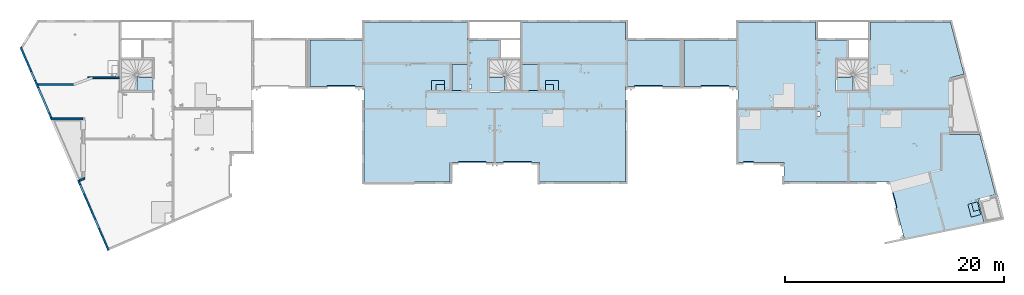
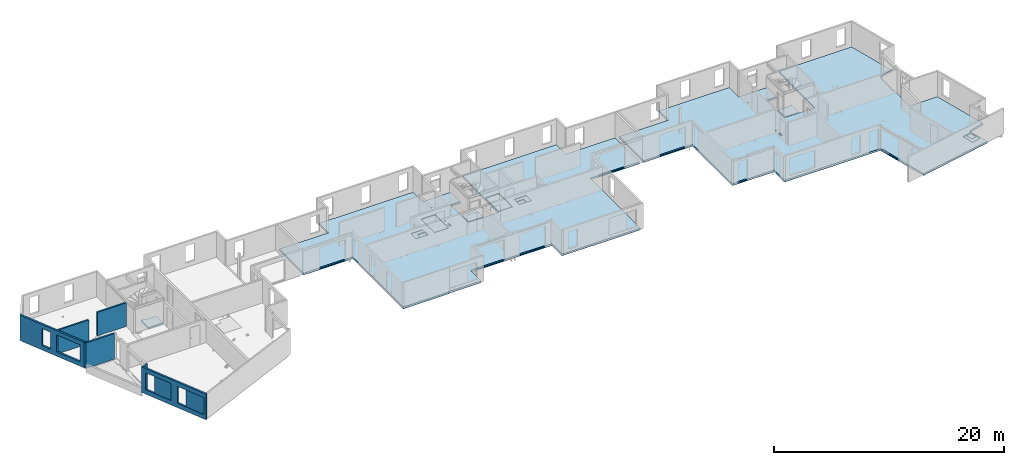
# One storey, part 2 of 30: 6 walls, 5 slabs, 31 openings.
"""IFC2X3 building model written with IfcOpenShell, lengths in centimetres."""

from ifc_helpers import new_model, entity, si_unit, converted_unit, derived_unit, direction, frame, frame_2d, origin, origin_2d_with_axis, place, context, subcontext, project, spatial, polyline, circle_curve, parameter, trimmed, segment, composite_curve, rectangle, circle, outline, extrude, material, layer, layer_set, layer_usage, type_object, element, save


model = new_model("IFC2X3")

# Units and contexts
model_context = context("Model", 3, precision=0.001, world=origin(), true_north=direction((6.12303176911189e-17, 1.0)))
body_context = subcontext(model_context, "Body", "Model", "MODEL_VIEW")
ifc_project = project(units=[si_unit("LENGTHUNIT", "METRE", prefix="CENTI"), si_unit("AREAUNIT", "SQUARE_METRE"), si_unit("VOLUMEUNIT", "CUBIC_METRE"), converted_unit("PLANEANGLEUNIT", "DEGREE", entity("IfcRatioMeasure", 0.0174532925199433), si_unit("PLANEANGLEUNIT", "RADIAN"), dimensions=[0, 0, 0, 0, 0, 0, 0]), si_unit("MASSUNIT", "GRAM", prefix="KILO"), derived_unit("MASSDENSITYUNIT", [(si_unit("MASSUNIT", "GRAM", prefix="KILO"), 1), (si_unit("LENGTHUNIT", "METRE"), -3)]), si_unit("TIMEUNIT", "SECOND"), si_unit("FREQUENCYUNIT", "HERTZ"), si_unit("THERMODYNAMICTEMPERATUREUNIT", "DEGREE_CELSIUS"), derived_unit("THERMALTRANSMITTANCEUNIT", [(si_unit("MASSUNIT", "GRAM", prefix="KILO"), 1), (si_unit("THERMODYNAMICTEMPERATUREUNIT", "KELVIN"), -1), (si_unit("TIMEUNIT", "SECOND"), -3)]), derived_unit("VOLUMETRICFLOWRATEUNIT", [(si_unit("LENGTHUNIT", "METRE"), 3), (si_unit("TIMEUNIT", "SECOND"), -1)]), si_unit("ELECTRICCURRENTUNIT", "AMPERE"), si_unit("ELECTRICVOLTAGEUNIT", "VOLT"), si_unit("POWERUNIT", "WATT"), si_unit("FORCEUNIT", "NEWTON"), si_unit("ILLUMINANCEUNIT", "LUX"), si_unit("LUMINOUSFLUXUNIT", "LUMEN"), si_unit("LUMINOUSINTENSITYUNIT", "CANDELA"), derived_unit("USERDEFINED", [(si_unit("MASSUNIT", "GRAM", prefix="KILO"), -1), (si_unit("LENGTHUNIT", "METRE"), -2), (si_unit("TIMEUNIT", "SECOND"), 3), (si_unit("LUMINOUSFLUXUNIT", "LUMEN"), 1)]), derived_unit("LINEARVELOCITYUNIT", [(si_unit("LENGTHUNIT", "METRE"), 1), (si_unit("TIMEUNIT", "SECOND"), -1)]), si_unit("PRESSUREUNIT", "PASCAL"), derived_unit("USERDEFINED", [(si_unit("LENGTHUNIT", "METRE"), -2), (si_unit("MASSUNIT", "GRAM", prefix="KILO"), 1), (si_unit("TIMEUNIT", "SECOND"), -2)])], contexts=[model_context])

# Site, building, storey
site_placement = place(None, origin())
site = spatial("IfcSite", under=ifc_project, at=site_placement, Name="Default", CompositionType="ELEMENT")
building_placement = place(site_placement, origin())
building = spatial("IfcBuilding", under=site, at=building_placement, Name="CAGE 03", CompositionType="ELEMENT")
storey_placement = place(building_placement, frame((0.0, 0.0, 610.0)))
storey = spatial("IfcBuildingStorey", under=building, at=storey_placement, Name="R+2", CompositionType="ELEMENT", Elevation=610.0)

# Slab, openings
ifc_material = material(Name="Béton, C25/30")
ifc_layer_1 = layer(ifc_material, 20.0)
ifc_layer_set_1 = layer_set([ifc_layer_1], Name="Sol:Dalle Béton - 20 cm")
ifc_layer_usage_1 = layer_usage(ifc_layer_set_1, "AXIS3", "POSITIVE", 0.0)
slab_1_placement = place(storey_placement, frame((5393.36582014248, 3809.1606660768, -20.0)))
slab_1 = element("IfcSlab", 1, at=slab_1_placement, inside=storey, material=ifc_layer_usage_1, Name="Sol:Dalle Béton - 20 cm", ObjectType="Sol:Dalle Béton - 20 cm", PredefinedType="FLOOR", context=body_context, shape_type="SweptSolid", body=[
    extrude(outline(polyline([(-37.0, 402.749999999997), (62.4999999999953, 402.749999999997), (62.4999999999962, 95.7499999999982), (-244.500000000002, 95.7499999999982), (-244.500000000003, 568.249999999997), (-250.0, 568.249999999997), (-250.0, 733.249999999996), (-1193.0, 733.249999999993), (-1193.0, 568.249999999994), (-1688.0, 568.249999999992), (-1688.0, 144.249999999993), (-1193.0, 144.249999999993), (-1193.0, -727.750000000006), (-408.0, -727.750000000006), (-408.0, -547.750000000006), (408.0, -547.750000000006), (408.0, -727.749999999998), (734.0, -727.749999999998), (734.0, -733.25), (1193.0, -733.249999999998), (1193.0, 144.250000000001), (1688.0, 144.250000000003), (1688.0, 568.250000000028), (1193.0, 568.250000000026), (1193.0, 733.25), (250.0, 733.249999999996), (250.0, 568.249999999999), (-37.0, 568.249999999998), (-37.0, 402.749999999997)])), frame((1688.0, 733.25, 20.0), z_axis=(0.0, 0.0, -1.0), x_axis=(-1.0, 0.0, 0.0)), (0.0, 0.0, 1.0), 20.0),
])
opening_1_placement = place(slab_1_placement, origin())
element("IfcOpeningElement", 2, at=opening_1_placement, cuts=slab_1, ObjectType="Opening", context=body_context, shape_type="SweptSolid", body=[
    extrude(rectangle(XDim=254.999999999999, YDim=26.0000000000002, at=origin_2d_with_axis()), frame((284.5, 872.500000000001, 8.0)), (0.0, 0.0, 1.0), 12.0),
])
opening_2_placement = place(slab_1_placement, origin())
element("IfcOpeningElement", 3, at=opening_2_placement, cuts=slab_1, ObjectType="Opening", context=body_context, shape_type="SweptSolid", body=[
    extrude(rectangle(XDim=255.000000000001, YDim=25.9999999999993, at=origin_2d_with_axis()), frame((3091.49999999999, 872.499999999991, 8.0)), (0.0, 0.0, 1.0), 12.0),
])
opening_3_placement = place(slab_1_placement, origin())
element("IfcOpeningElement", 4, at=opening_3_placement, cuts=slab_1, ObjectType="Opening", context=body_context, shape_type="SweptSolid", body=[
    extrude(rectangle(XDim=254.999999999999, YDim=26.0000000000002, at=origin_2d_with_axis()), frame((1481.5, 180.499999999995, 8.0)), (0.0, 0.0, 1.0), 12.0),
])
opening_4_placement = place(slab_1_placement, origin())
element("IfcOpeningElement", 5, at=opening_4_placement, cuts=slab_1, ObjectType="Opening", context=body_context, shape_type="SweptSolid", body=[
    extrude(rectangle(XDim=254.999999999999, YDim=25.9999999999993, at=origin_2d_with_axis()), frame((1894.49999999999, 180.499999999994, 8.0)), (0.0, 0.0, 1.0), 12.0),
])
opening_5_placement = place(slab_1_placement, origin())
element("IfcOpeningElement", 6, at=opening_5_placement, cuts=slab_1, ObjectType="Opening", context=body_context, shape_type="SweptSolid", body=[
    extrude(rectangle(XDim=120.000000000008, YDim=90.0000000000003, at=origin_2d_with_axis()), frame((1168.0, 886.499999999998, 17.0), z_axis=(0.0, 0.0, 1.0), x_axis=(-1.0, 0.0, 0.0)), (0.0, 0.0, 1.0), 13.9999999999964),
])
opening_6_placement = place(slab_1_placement, origin())
element("IfcOpeningElement", 7, at=opening_6_placement, cuts=slab_1, ObjectType="Opening", context=body_context, shape_type="SweptSolid", body=[
    extrude(rectangle(XDim=75.0000000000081, YDim=54.9999999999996, at=origin_2d_with_axis()), frame((1190.5, 869.0, 10.0), z_axis=(0.0, 0.0, 1.0), x_axis=(-1.0, 0.0, 0.0)), (0.0, 0.0, 1.0), 20.9999999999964),
])
opening_7_placement = place(slab_1_placement, origin())
element("IfcOpeningElement", 8, at=opening_7_placement, cuts=slab_1, ObjectType="Opening", context=body_context, shape_type="SweptSolid", body=[
    extrude(rectangle(XDim=120.000000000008, YDim=90.0000000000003, at=origin_2d_with_axis()), frame((2208.0, 886.499999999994, 17.0), z_axis=(0.0, 0.0, 1.0), x_axis=(-1.0, 0.0, 0.0)), (0.0, 0.0, 1.0), 13.9999999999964),
])
opening_8_placement = place(slab_1_placement, origin())
element("IfcOpeningElement", 9, at=opening_8_placement, cuts=slab_1, ObjectType="Opening", context=body_context, shape_type="SweptSolid", body=[
    extrude(rectangle(XDim=75.0000000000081, YDim=54.9999999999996, at=origin_2d_with_axis()), frame((2185.50000000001, 869.0, 10.0), z_axis=(0.0, 0.0, 1.0), x_axis=(-1.0, 0.0, 0.0)), (0.0, 0.0, 1.0), 20.9999999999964),
])
opening_9_placement = place(slab_1_placement, origin())
element("IfcOpeningElement", 10, at=opening_9_placement, cuts=slab_1, ObjectType="Opening", context=body_context, shape_type="SweptSolid", body=[
    extrude(rectangle(XDim=237.000000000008, YDim=142.0, at=origin_2d_with_axis()), frame((2009.0, 960.0, 14.0), z_axis=(0.0, 0.0, 1.0), x_axis=(0.0, 1.0, 0.0)), (0.0, 0.0, 1.0), 16.9999999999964),
])
opening_10_placement = place(slab_1_placement, origin())
element("IfcOpeningElement", 11, at=opening_10_placement, cuts=slab_1, ObjectType="Recess", context=body_context, shape_type="SweptSolid", body=[
    extrude(rectangle(XDim=237.000000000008, YDim=142.0, at=origin_2d_with_axis()), frame((1367.0, 960.0, 14.0), z_axis=(0.0, 0.0, 1.0), x_axis=(0.0, 1.0, 0.0)), (0.0, 0.0, 1.0), 16.9999999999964),
])
opening_11_placement = place(slab_1_placement, origin())
element("IfcOpeningElement", 12, at=opening_11_placement, cuts=slab_1, ObjectType="Opening", context=body_context, shape_type="SweptSolid", body=[
    extrude(rectangle(XDim=39.9999999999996, YDim=19.9999999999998, at=origin_2d_with_axis()), frame((1466.0, 878.0, -254.327930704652), z_axis=(0.0, 0.0, 1.0), x_axis=(0.0, -1.0, 0.0)), (0.0, 0.0, 1.0), 493.425926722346),
])
opening_12_placement = place(slab_1_placement, origin())
element("IfcOpeningElement", 13, at=opening_12_placement, cuts=slab_1, ObjectType="Opening", context=body_context, shape_type="SweptSolid", body=[
    extrude(circle(Radius=5.5, at=origin_2d_with_axis()), frame((1461.5, 948.0, 0.0)), (0.0, 0.0, 1.0), 20.0),
])
opening_13_placement = place(slab_1_placement, origin())
element("IfcOpeningElement", 14, at=opening_13_placement, cuts=slab_1, ObjectType="Opening", context=body_context, shape_type="SweptSolid", body=[
    extrude(circle(Radius=5.5, at=origin_2d_with_axis()), frame((1461.5, 1182.49999999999, 0.0)), (0.0, 0.0, 1.0), 20.0),
])

ifc_layer_usage_2 = layer_usage(ifc_layer_set_1, "AXIS3", "POSITIVE", 0.0)
slab_2_placement = place(storey_placement, frame((8807.36582014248, 3296.83520563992, -20.0)))
slab_2 = element("IfcSlab", 15, at=slab_2_placement, inside=storey, material=ifc_layer_usage_2, Name="Sol:Dalle Béton - 20 cm", ObjectType="Sol:Dalle Béton - 20 cm", PredefinedType="FLOOR", context=body_context, shape_type="SweptSolid", body=[
    extrude(outline(polyline([(927.01368856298, 824.412730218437), (927.01368856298, 989.412730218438), (219.01368856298, 989.412730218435), (219.01368856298, 824.412730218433), (-65.9863114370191, 824.412730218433), (-65.9863114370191, 658.912730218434), (33.5136885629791, 658.912730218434), (33.5136885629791, 351.912730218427), (-273.486311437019, 351.912730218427), (-273.486311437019, 824.412730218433), (-278.986311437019, 824.412730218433), (-278.986311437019, 989.412730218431), (-1010.53847208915, 989.412730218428), (-1134.9695607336, 512.946663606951), (-1000.98631143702, 477.956382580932), (-1000.98631143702, -37.5872697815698), (-1278.74377985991, -37.5872697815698), (-1422.01368856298, -586.19011981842), (-1262.36794097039, -627.882268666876), (-1317.58746437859, -839.32644556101), (-589.380906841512, -989.412730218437), (-454.148641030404, -471.587269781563), (508.013688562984, -471.587269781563), (508.013688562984, -291.587269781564), (927.013688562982, -291.587269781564), (927.013688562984, 400.412730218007), (1422.01368856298, 400.412730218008), (1422.01368856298, 824.412730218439), (927.01368856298, 824.412730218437)])), frame((1422.01368856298, 989.412730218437, 20.0), z_axis=(0.0, 0.0, -1.0), x_axis=(-1.0, 0.0, 0.0)), (0.0, 0.0, 1.0), 20.0),
])
opening_14_placement = place(slab_2_placement, origin())
element("IfcOpeningElement", 16, at=opening_14_placement, cuts=slab_2, ObjectType="Opening", context=body_context, shape_type="SweptSolid", body=[
    extrude(rectangle(XDim=90.0000000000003, YDim=26.0000000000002, at=origin_2d_with_axis()), frame((589.499999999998, 692.825460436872, 8.0)), (0.0, 0.0, 1.0), 12.0),
])
opening_15_placement = place(slab_2_placement, origin())
element("IfcOpeningElement", 17, at=opening_15_placement, cuts=slab_2, ObjectType="Opening", context=body_context, shape_type="SweptSolid", body=[
    extrude(rectangle(XDim=220.0, YDim=26.0000000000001, at=origin_2d_with_axis()), frame((1904.15874534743, 390.834914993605, 8.0), z_axis=(0.0, 0.0, 1.0), x_axis=(0.25267968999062, -0.967549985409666, 0.0)), (0.0, 0.0, 1.0), 12.0),
])
opening_16_placement = place(slab_2_placement, origin())
element("IfcOpeningElement", 18, at=opening_16_placement, cuts=slab_2, ObjectType="Opening", context=body_context, shape_type="SweptSolid", body=[
    extrude(rectangle(XDim=255.000000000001, YDim=26.0000000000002, at=origin_2d_with_axis()), frame((284.500000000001, 1384.82546043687, 8.0)), (0.0, 0.0, 1.0), 12.0),
])
opening_17_placement = place(slab_2_placement, origin())
element("IfcOpeningElement", 19, at=opening_17_placement, cuts=slab_2, ObjectType="Opening", context=body_context, shape_type="SweptSolid", body=[
    extrude(rectangle(XDim=120.000000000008, YDim=90.0000000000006, at=origin_2d_with_axis()), frame((2650.07735478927, 267.304845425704, 17.0), z_axis=(0.0, 0.0, 1.0), x_axis=(-0.252679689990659, 0.967549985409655, 0.0)), (0.0, 0.0, 1.0), 13.9999999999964),
])
opening_18_placement = place(slab_2_placement, origin())
element("IfcOpeningElement", 20, at=opening_18_placement, cuts=slab_2, ObjectType="Opening", context=body_context, shape_type="SweptSolid", body=[
    extrude(rectangle(XDim=75.0000000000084, YDim=55.0000000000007, at=origin_2d_with_axis()), frame((2661.32418650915, 293.496614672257, 10.0), z_axis=(0.0, 0.0, 1.0), x_axis=(-0.252679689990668, 0.967549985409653, 0.0)), (0.0, 0.0, 1.0), 20.9999999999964),
])
opening_19_placement = place(slab_2_placement, origin())
element("IfcOpeningElement", 21, at=opening_19_placement, cuts=slab_2, ObjectType="Opening", context=body_context, shape_type="SweptSolid", body=[
    extrude(outline(polyline([(0.254779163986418, -10.3333333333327), (2.75477916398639, -10.3333333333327), (2.75477916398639, 13.666666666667), (-2.24522083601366, 13.666666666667), (-2.24522083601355, -3.33333333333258), (-1.27389581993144, -3.33333333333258), (0.254779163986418, -10.3333333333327)])), frame((2427.33333333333, 1019.82546043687, 17.2452208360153), z_axis=(0.0, 1.0, 0.0), x_axis=(0.0, 0.0, 1.0)), (0.0, 0.0, 1.0), 91.000000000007),
])
opening_20_placement = place(slab_2_placement, origin())
element("IfcOpeningElement", 22, at=opening_20_placement, cuts=slab_2, ObjectType="Opening", context=body_context, shape_type="SweptSolid", body=[
    extrude(outline(polyline([(0.254779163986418, -10.3333333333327), (2.75477916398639, -10.3333333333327), (2.75477916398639, 13.666666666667), (-2.24522083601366, 13.666666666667), (-2.24522083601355, -3.33333333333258), (-1.27389581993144, -3.33333333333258), (0.254779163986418, -10.3333333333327)])), frame((2427.33333333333, 1219.82546043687, 17.2452208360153), z_axis=(0.0, 1.0, 0.0), x_axis=(0.0, 0.0, 1.0)), (0.0, 0.0, 1.0), 220.000000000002),
])
opening_21_placement = place(slab_2_placement, origin())
element("IfcOpeningElement", 23, at=opening_21_placement, cuts=slab_2, ObjectType="Opening", context=body_context, shape_type="SweptSolid", body=[
    extrude(rectangle(XDim=39.9999999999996, YDim=19.9999999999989, at=origin_2d_with_axis()), frame((1231.0, 1139.32546043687, -254.327930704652), z_axis=(0.0, 0.0, 1.0), x_axis=(0.0, -1.0, 0.0)), (0.0, 0.0, 1.0), 493.425926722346),
])
opening_22_placement = place(slab_2_placement, origin())
element("IfcOpeningElement", 24, at=opening_22_placement, cuts=slab_2, ObjectType="Opening", context=body_context, shape_type="SweptSolid", body=[
    extrude(circle(Radius=5.5, at=origin_2d_with_axis()), frame((1226.5, 1209.32546043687, 0.0)), (0.0, 0.0, 1.0), 20.0),
])
opening_23_placement = place(slab_2_placement, origin())
element("IfcOpeningElement", 25, at=opening_23_placement, cuts=slab_2, ObjectType="Opening", context=body_context, shape_type="SweptSolid", body=[
    extrude(circle(Radius=5.5, at=origin_2d_with_axis()), frame((1226.5, 1694.82546043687, 0.0)), (0.0, 0.0, 1.0), 20.0),
])

# Slabs
ifc_layer_usage_3 = layer_usage(ifc_layer_set_1, "AXIS3", "POSITIVE", 0.0)
slab_3_placement = place(storey_placement, origin())
element("IfcSlab", 26, at=slab_3_placement, inside=storey, material=ifc_layer_usage_3, Name="Sol:Dalle Béton - 20 cm", ObjectType="Sol:Dalle Béton - 20 cm", PredefinedType="FLOOR", context=body_context, shape_type="SweptSolid", body=[
    extrude(outline(composite_curve([segment(polyline([(-85.2340667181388, -57.407853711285), (46.2659332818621, -57.407853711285)]), True, "CONTINUOUS"), segment(trimmed(circle_curve(frame_2d((61.265933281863, -57.4078537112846), x_axis=(-1.0, 0.0)), 15.0000000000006), [parameter(309.828117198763)], [parameter(0.0)], True, "PARAMETER"), False, "CONTINUOUS"), segment(trimmed(circle_curve(frame_2d((70.189448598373, -17.4802710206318), x_axis=(-0.546347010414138, -0.837558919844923)), 33.9176653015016), [parameter(303.116761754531)], [parameter(0.0)], True, "PARAMETER"), False, "CONTINUOUS"), segment(polyline([(36.271783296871, -17.4802710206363), (36.271783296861, 89.0921462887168)]), True, "CONTINUOUS"), segment(polyline([(36.271783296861, 89.0921462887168), (-85.2340667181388, 89.0921462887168)]), True, "CONTINUOUS"), segment(polyline([(-85.2340667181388, 89.0921462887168), (-85.2340667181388, -57.407853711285)]), True, "CONTINUOUS")], self_intersect=False)), frame((3870.77367385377, 4730.39473279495, 0.0), z_axis=(0.0, 0.0, -1.0), x_axis=(0.0, 1.0, 0.0)), (0.0, 0.0, 1.0), 20.0),
])
ifc_layer_usage_4 = layer_usage(ifc_layer_set_1, "AXIS3", "POSITIVE", 0.0)
slab_4_placement = place(storey_placement, origin())
element("IfcSlab", 27, at=slab_4_placement, inside=storey, material=ifc_layer_usage_4, Name="Sol:Dalle Béton - 20 cm", ObjectType="Sol:Dalle Béton - 20 cm", PredefinedType="FLOOR", context=body_context, shape_type="SweptSolid", body=[
    extrude(outline(composite_curve([segment(polyline([(-85.2340667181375, -89.0921462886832), (36.2717832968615, -89.0921462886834)]), True, "CONTINUOUS"), segment(polyline([(36.2717832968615, -89.0921462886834), (36.2717832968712, 17.4802710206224)]), True, "CONTINUOUS"), segment(trimmed(circle_curve(frame_2d((70.1894485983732, 17.4802710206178), x_axis=(-1.0, 0.0)), 33.9176653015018), [parameter(303.116761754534)], [parameter(0.0)], True, "PARAMETER"), False, "CONTINUOUS"), segment(trimmed(circle_curve(frame_2d((61.265933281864, 57.4078537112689), x_axis=(-0.640486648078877, -0.76796930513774)), 15.0000000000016), [parameter(309.828117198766)], [parameter(0.0)], True, "PARAMETER"), False, "CONTINUOUS"), segment(polyline([(46.2659332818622, 57.4078537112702), (-85.2340667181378, 57.4078537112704)]), True, "CONTINUOUS"), segment(polyline([(-85.2340667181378, 57.4078537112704), (-85.2340667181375, -89.0921462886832)]), True, "CONTINUOUS")], self_intersect=False)), frame((7114.95796643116, 4730.39473279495, 0.0), z_axis=(0.0, 0.0, -1.0), x_axis=(0.0, 1.0, 0.0)), (0.0, 0.0, 1.0), 20.0),
])
ifc_layer_usage_5 = layer_usage(ifc_layer_set_1, "AXIS3", "POSITIVE", 0.0)
slab_5_placement = place(storey_placement, origin())
element("IfcSlab", 28, at=slab_5_placement, inside=storey, material=ifc_layer_usage_5, Name="Sol:Dalle Béton - 20 cm", ObjectType="Sol:Dalle Béton - 20 cm", PredefinedType="FLOOR", context=body_context, shape_type="SweptSolid", body=[
    extrude(outline(composite_curve([segment(polyline([(-85.2340667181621, -89.092146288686), (36.2717832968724, -89.0921462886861)]), True, "CONTINUOUS"), segment(polyline([(36.2717832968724, -89.0921462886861), (36.2717832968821, 17.4802710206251)]), True, "CONTINUOUS"), segment(trimmed(circle_curve(frame_2d((70.1894485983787, 17.4802710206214), x_axis=(-1.0, 0.0)), 33.9176653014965), [parameter(303.116761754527)], [parameter(0.0)], True, "PARAMETER"), False, "CONTINUOUS"), segment(trimmed(circle_curve(frame_2d((61.2659332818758, 57.4078537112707), x_axis=(-0.640486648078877, -0.76796930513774)), 15.0000000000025), [parameter(309.828117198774)], [parameter(0.0)], True, "PARAMETER"), False, "CONTINUOUS"), segment(polyline([(46.2659332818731, 57.4078537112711), (-85.2340667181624, 57.4078537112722)]), True, "CONTINUOUS"), segment(polyline([(-85.2340667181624, 57.4078537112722), (-85.2340667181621, -89.092146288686)]), True, "CONTINUOUS")], self_intersect=False)), frame((10291.9579664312, 4730.39473279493, 0.0), z_axis=(0.0, 0.0, -1.0), x_axis=(0.0, 1.0, 0.0)), (0.0, 0.0, 1.0), 20.0),
])

# Wall, openings
ifc_layer_2 = layer(ifc_material, 18.0)
ifc_layer_set_2 = layer_set([ifc_layer_2], Name="Mur de base:Voile BA 18")
ifc_layer_usage_6 = layer_usage(ifc_layer_set_2, "AXIS2", "NEGATIVE", 9.0)
wall_type_1 = type_object("IfcWallType", Name="Mur de base:Voile BA 18", PredefinedType="STANDARD", material=ifc_layer_set_2)
wall_1_placement = place(storey_placement, frame((3555.63190908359, 3190.75283012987, 0.0), z_axis=(0.0, 0.0, 1.0), x_axis=(-0.397106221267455, 0.917772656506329, 0.0)))
wall_1 = element("IfcWallStandardCase", 29, at=wall_1_placement, inside=storey, type_object=wall_type_1, material=ifc_layer_usage_6, Name="Mur de base:Voile BA 18", ObjectType="Mur de base:Voile BA 18", context=body_context, shape_type="SweptSolid", body=[
    extrude(rectangle(XDim=698.999999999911, YDim=18.0000000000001, at=frame_2d((349.499999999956, -3.90798504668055e-14), x_axis=(-1.0, 0.0))), origin(), (0.0, 0.0, 1.0), 270.0),
])
opening_24_placement = place(wall_1_placement, origin())
element("IfcOpeningElement", 30, at=opening_24_placement, cuts=wall_1, Name="Mur de base:Voile BA 18", ObjectType="Recess", context=body_context, shape_type="SweptSolid", body=[
    extrude(rectangle(XDim=181.0, YDim=184.0, at=frame_2d((-2.91322521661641e-13, 1.06581410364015e-13), x_axis=(0.0, 1.0))), frame((470.0, 7.0, 135.5), z_axis=(0.0, 1.0, 0.0), x_axis=(1.0, 0.0, 0.0)), (0.0, 0.0, 1.0), 1.99999999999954),
])
opening_25_placement = place(wall_1_placement, origin())
element("IfcOpeningElement", 31, at=opening_25_placement, cuts=wall_1, Name="Mur de base:Voile BA 18", ObjectType="Recess", context=body_context, shape_type="SweptSolid", body=[
    extrude(rectangle(XDim=181.0, YDim=194.0, at=frame_2d((0.0, 1.06581410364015e-13), x_axis=(0.0, 1.0))), frame((121.0, 7.0, 135.5), z_axis=(0.0, 1.0, 0.0), x_axis=(1.0, 0.0, 0.0)), (0.0, 0.0, 1.0), 2.00000000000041),
])
opening_26_placement = place(wall_1_placement, frame((-1516.4221495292, 4530.32954212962, 0.0), z_axis=(0.0, 0.0, 1.0), x_axis=(-0.397106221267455, -0.917772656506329, 0.0)))
element("IfcOpeningElement", 32, at=opening_26_placement, cuts=wall_1, Name="Mur de base:Voile BA 18", ObjectType="Opening", context=body_context, shape_type="SweptSolid", body=[
    extrude(rectangle(XDim=181.0, YDim=91.0, at=frame_2d((0.0, -8.88178419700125e-14), x_axis=(1.0, 0.0))), frame((3445.99847860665, 3805.24475108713, 135.5), z_axis=(-0.917772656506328, -0.397106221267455, 0.0), x_axis=(0.0, 0.0, 1.0)), (0.0, 0.0, 1.0), 304.800000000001),
])
opening_27_placement = place(wall_1_placement, frame((-1516.4221495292, 4530.32954212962, 0.0), z_axis=(0.0, 0.0, 1.0), x_axis=(-0.397106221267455, -0.917772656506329, 0.0)))
element("IfcOpeningElement", 33, at=opening_27_placement, cuts=wall_1, Name="Mur de base:Voile BA 18", ObjectType="Opening", context=body_context, shape_type="SweptSolid", body=[
    extrude(rectangle(XDim=181.0, YDim=91.0, at=frame_2d((0.0, 8.88178419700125e-14), x_axis=(1.0, 0.0))), frame((3582.60301872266, 3489.53095724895, 135.5), z_axis=(-0.917772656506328, -0.397106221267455, 0.0), x_axis=(0.0, 0.0, 1.0)), (0.0, 0.0, 1.0), 304.8),
])

# Walls
ifc_layer_usage_7 = layer_usage(ifc_layer_set_2, "AXIS2", "NEGATIVE", 9.0)
wall_2_placement = place(storey_placement, frame((3289.88857031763, 3827.58991911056, 0.0), z_axis=(0.0, 0.0, 1.0), x_axis=(0.917772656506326, 0.397106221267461, 0.0)))
element("IfcWallStandardCase", 34, at=wall_2_placement, inside=storey, type_object=wall_type_1, material=ifc_layer_usage_7, Name="Mur de base:Voile BA 18", ObjectType="Mur de base:Voile BA 18", context=body_context, shape_type="SweptSolid", body=[
    extrude(outline(polyline([(47.2919884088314, -9.0), (55.0803136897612, 9.0), (35.4676134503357, 9.0), (0.0, 9.0), (0.0, -9.0), (47.2919884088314, -9.0)])), origin(), (0.0, 0.0, 1.0), 270.0),
])
ifc_layer_usage_8 = layer_usage(ifc_layer_set_2, "AXIS2", "NEGATIVE", 9.0)
wall_3_placement = place(storey_placement, frame((3318.86582014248, 4390.66066607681, 0.0), z_axis=(0.0, 0.0, 1.0), x_axis=(-1.0, 0.0, 0.0)))
element("IfcWallStandardCase", 35, at=wall_3_placement, inside=storey, type_object=wall_type_1, material=ifc_layer_usage_8, Name="Mur de base:Voile BA 18", ObjectType="Mur de base:Voile BA 18", context=body_context, shape_type="SweptSolid", body=[
    extrude(outline(polyline([(296.116231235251, -9.0), (288.327905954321, 9.0), (0.0, 9.0), (0.0, -9.0), (276.503530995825, -9.0), (296.116231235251, -9.0)])), origin(), (0.0, 0.0, 1.0), 270.0),
])

# Wall, openings
ifc_layer_usage_9 = layer_usage(ifc_layer_set_2, "AXIS2", "NEGATIVE", 9.0)
wall_4_placement = place(storey_placement, frame((3034.1023352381, 4396.08671008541, 0.0), z_axis=(0.0, 0.0, 1.0), x_axis=(-0.397106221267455, 0.917772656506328, 0.0)))
wall_4 = element("IfcWallStandardCase", 36, at=wall_4_placement, inside=storey, type_object=wall_type_1, material=ifc_layer_usage_9, Name="Mur de base:Voile BA 18", ObjectType="Mur de base:Voile BA 18", context=body_context, shape_type="SweptSolid", body=[
    extrude(outline(polyline([(714.485241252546, -9.0), (702.125283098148, 9.0), (7.78832528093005, 9.0), (0.0, -9.0), (323.609553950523, -9.0), (341.043065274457, -9.0), (692.65021055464, -9.0), (714.485241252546, -9.0)])), origin(), (0.0, 0.0, 1.0), 270.0),
])
opening_28_placement = place(wall_4_placement, origin())
element("IfcOpeningElement", 37, at=opening_28_placement, cuts=wall_4, Name="Mur de base:Voile BA 18", ObjectType="Recess", context=body_context, shape_type="SweptSolid", body=[
    extrude(rectangle(XDim=181.0, YDim=184.0, at=frame_2d((-2.91322521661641e-13, 1.06581410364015e-13), x_axis=(0.0, 1.0))), frame((-843.325115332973, 7.0, 135.5), z_axis=(0.0, 1.0, 0.0), x_axis=(1.0, 0.0, 0.0)), (0.0, 0.0, 1.0), 2.00000000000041),
])
opening_29_placement = place(wall_4_placement, origin())
element("IfcOpeningElement", 38, at=opening_29_placement, cuts=wall_4, Name="Mur de base:Voile BA 18", ObjectType="Recess", context=body_context, shape_type="SweptSolid", body=[
    extrude(rectangle(XDim=181.0, YDim=194.0, at=frame_2d((0.0, 1.06581410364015e-13), x_axis=(0.0, 1.0))), frame((-1192.32511533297, 7.0, 135.5), z_axis=(0.0, 1.0, 0.0), x_axis=(1.0, 0.0, 0.0)), (0.0, 0.0, 1.0), 1.99999999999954),
])
opening_30_placement = place(wall_4_placement, frame((-2829.74726486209, 4530.32954212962, 0.0), z_axis=(0.0, 0.0, 1.0), x_axis=(-0.397106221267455, -0.917772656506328, 0.0)))
element("IfcOpeningElement", 39, at=opening_30_placement, cuts=wall_4, Name="Mur de base:Voile BA 18", ObjectType="Opening", context=body_context, shape_type="SweptSolid", body=[
    extrude(rectangle(XDim=181.0, YDim=251.0, at=frame_2d((0.0, 4.05009359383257e-13), x_axis=(1.0, 0.0))), frame((3094.36091967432, 4617.93243842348, 135.5), z_axis=(-0.917772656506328, -0.397106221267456, 0.0), x_axis=(0.0, 0.0, 1.0)), (0.0, 0.0, 1.0), 304.8),
])
opening_31_placement = place(wall_4_placement, frame((-2829.74726486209, 4530.32954212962, 0.0), z_axis=(0.0, 0.0, 1.0), x_axis=(-0.397106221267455, -0.917772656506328, 0.0)))
element("IfcOpeningElement", 40, at=opening_31_placement, cuts=wall_4, Name="Mur de base:Voile BA 18", ObjectType="Opening", context=body_context, shape_type="SweptSolid", body=[
    extrude(rectangle(XDim=181.0, YDim=91.0, at=frame_2d((0.0, -8.88178419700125e-14), x_axis=(1.0, 0.0))), frame((2999.05542657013, 4838.197875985, 135.5), z_axis=(-0.917772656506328, -0.397106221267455, 0.0), x_axis=(0.0, 0.0, 1.0)), (0.0, 0.0, 1.0), 304.8),
])

# Walls
ifc_layer_3 = layer(ifc_material, 16.0)
ifc_layer_set_3 = layer_set([ifc_layer_3], Name="Mur de base:Voile BA 16")
ifc_layer_usage_10 = layer_usage(ifc_layer_set_3, "AXIS2", "POSITIVE", -8.0)
wall_type_2 = type_object("IfcWallType", Name="Mur de base:Voile BA 16", PredefinedType="STANDARD", material=ifc_layer_set_3)
wall_5_placement = place(storey_placement, frame((3363.36582014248, 4767.16066607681, 0.0)))
element("IfcWallStandardCase", 41, at=wall_5_placement, inside=storey, type_object=wall_type_2, material=ifc_layer_usage_10, Name="Mur de base:Voile BA 16", ObjectType="Mur de base:Voile BA 16", context=body_context, shape_type="SweptSolid", body=[
    extrude(rectangle(XDim=291.0, YDim=15.9999999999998, at=frame_2d((145.5, 5.72875080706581e-14), x_axis=(-1.0, 0.0))), origin(), (0.0, 0.0, 1.0), 250.0),
])
ifc_layer_usage_11 = layer_usage(ifc_layer_set_3, "AXIS2", "POSITIVE", -8.0)
wall_6_placement = place(storey_placement, frame((2906.93196620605, 4704.66066607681, 0.0)))
element("IfcWallStandardCase", 42, at=wall_6_placement, inside=storey, type_object=wall_type_2, material=ifc_layer_usage_11, Name="Mur de base:Voile BA 16", ObjectType="Mur de base:Voile BA 16", context=body_context, shape_type="SweptSolid", body=[
    extrude(outline(polyline([(334.433853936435, -8.0), (334.433853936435, 8.0), (0.0, 8.0), (6.92295580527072, -8.0), (334.433853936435, -8.0)])), origin(), (0.0, 0.0, 1.0), 250.0),
])

save(model, "model.ifc")
